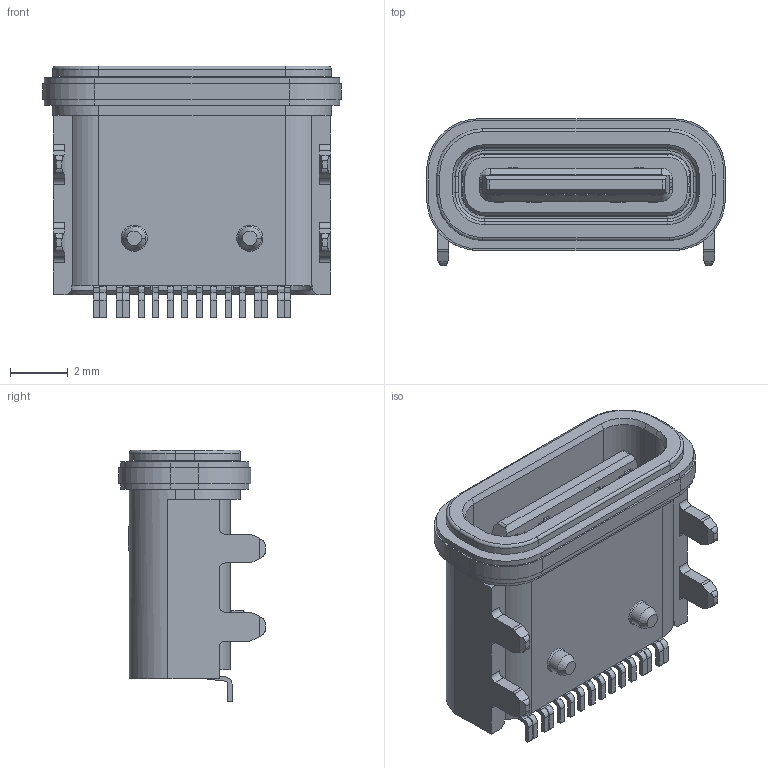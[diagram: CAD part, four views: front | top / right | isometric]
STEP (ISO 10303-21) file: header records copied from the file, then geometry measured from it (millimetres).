
FILE_DESCRIPTION (( 'STEP AP214' ), '1' );
FILE_NAME ('U5243-16PN7.9LF.STEP', '2026-07-29T02:37:24', ( '' ), ( '' ), 'SwSTEP 2.0', 'SolidWorks 2024', '' );
FILE_SCHEMA (( 'AUTOMOTIVE_DESIGN' ));
Length unit declared in the file: millimetre
Products named in the file (1): U5243-16PN7.9LF
Bounding box: 10.34 x 5.06 x 8.7 mm (x, y, z)
Volume: 180.9 mm3; surface area: 596.1 mm2
Topology: 1 solids, 24 shells, 1097 faces, 2945 edges, 1931 vertices
Faces by surface type: plane 833, cylinder 194, cone 33, bspline 25, torus 12
Entity records: 35308 total; most frequent: CARTESIAN_POINT 7715, ORIENTED_EDGE 5890, DIRECTION 5409, EDGE_CURVE 2945, LINE 2435, VECTOR 2435, VERTEX_POINT 1931, AXIS2_PLACEMENT_3D 1487
